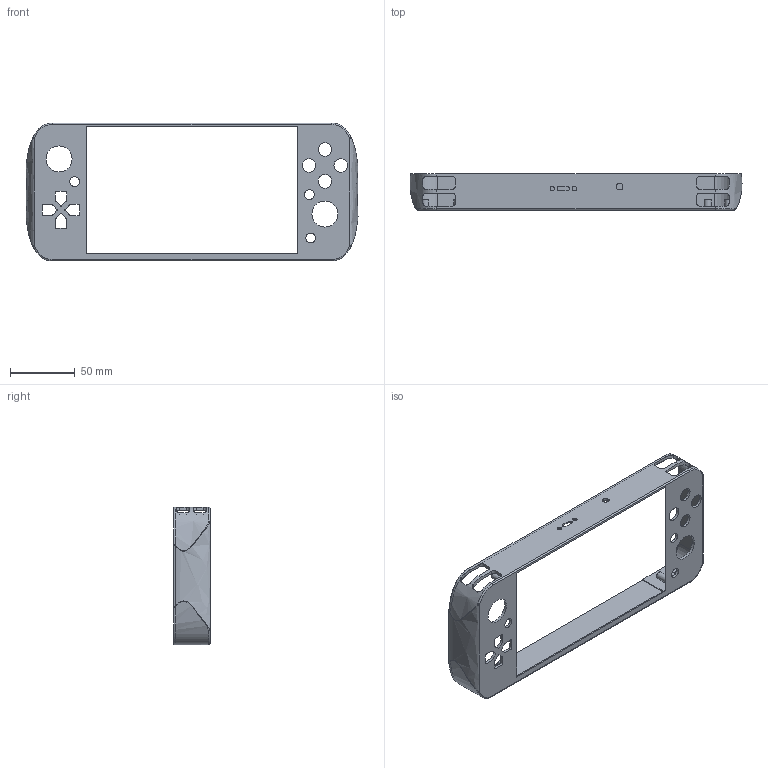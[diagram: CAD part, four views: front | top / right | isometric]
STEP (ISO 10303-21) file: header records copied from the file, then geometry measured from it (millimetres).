
FILE_DESCRIPTION(/* description */ ('STEP AP242','CAx-IF Rec.Pracs.---Representation and Presentation of Product Manufacturing Information (PMI)---4.0---2014-10-13','CAx-IF Rec.Pracs.---3D Tessellated Geometry---0.4---2014-09-14','2;1'),/* implementation_level */ '2;1');
FILE_NAME(/* name */ '686612626c98877d16368ca8',/* time_stamp */ '2025-07-03T05:17:23Z',/* author */ (''),/* organization */ (''),/* preprocessor_version */ 'ST-DEVELOPER v20',/* originating_system */ 'ONSHAPE BY PTC INC, 1.200',/* authorisation */ ' ');
FILE_SCHEMA (('AP242_MANAGED_MODEL_BASED_3D_ENGINEERING_MIM_LF { 1 0 10303 442 1 1 4 }'));
Length unit declared in the file: metre
Products named in the file (1): Part 1
Bounding box: 255.9 x 28 x 106 mm (x, y, z)
Volume: 60691 mm3; surface area: 56349.7 mm2
Topology: 1 solids, 1 shells, 187 faces, 521 edges, 347 vertices
Faces by surface type: plane 93, cylinder 75, bspline 19
Full cylindrical faces by diameter (mm): 2.5 x8, 3.4 x2, 5.5 x8, 7.5 x3, 10.5 x4, 20 x2
Entity records: 6916 total; most frequent: CARTESIAN_POINT 2185, ORIENTED_EDGE 972, DIRECTION 916, EDGE_CURVE 486, VERTEX_POINT 340, AXIS2_PLACEMENT_3D 317, LINE 282, VECTOR 282
